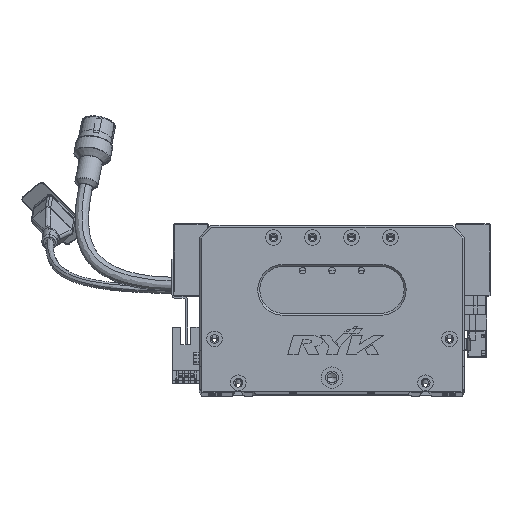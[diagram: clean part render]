
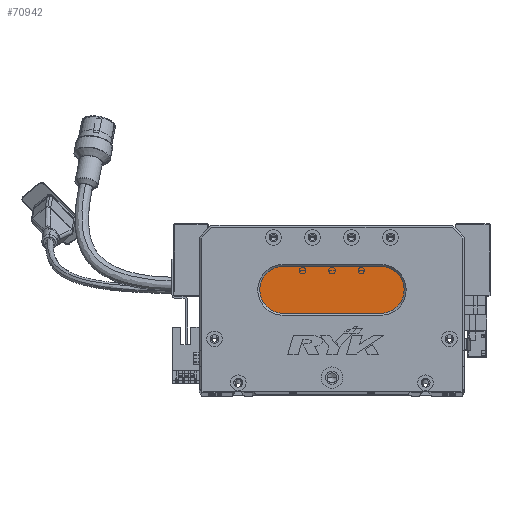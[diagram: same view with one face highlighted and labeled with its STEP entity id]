
A CAD part, top view. The second image highlights one B-rep face of the part: STEP entity #70942.
In plain terms, the highlighted planar face has unit normal (0, 0, 1) as drawn and (0, 0, -1) by its records, which use the part's own axes.
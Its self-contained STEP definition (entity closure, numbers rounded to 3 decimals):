
#49 = DIRECTION ( 'NONE',  ( 0., 0., -1. ) ) ;
#327 = EDGE_CURVE ( 'NONE', #45799, #19601, #66382, .T. ) ;
#499 = LINE ( 'NONE', #4787, #71736 ) ;
#2702 = DIRECTION ( 'NONE',  ( 0., 0., -1. ) ) ;
#4621 = AXIS2_PLACEMENT_3D ( 'NONE', #22626, #2702, #84747 ) ;
#4787 = CARTESIAN_POINT ( 'NONE',  ( 93., 64., 13. ) ) ;
#7245 = CARTESIAN_POINT ( 'NONE',  ( 93., 64., 13. ) ) ;
#7870 = CARTESIAN_POINT ( 'NONE',  ( 93., 52., 13. ) ) ;
#12320 = DIRECTION ( 'NONE',  ( 1., 0., 0. ) ) ;
#12760 = CARTESIAN_POINT ( 'NONE',  ( 43., 52., 13. ) ) ;
#15343 = AXIS2_PLACEMENT_3D ( 'NONE', #85127, #71833, #85415 ) ;
#17971 = CARTESIAN_POINT ( 'NONE',  ( 93., 40., 13. ) ) ;
#19601 = VERTEX_POINT ( 'NONE', #17971 ) ;
#20745 = ORIENTED_EDGE ( 'NONE', *, *, #327, .T. ) ;
#22626 = CARTESIAN_POINT ( 'NONE',  ( 43., 52., 13. ) ) ;
#28524 = CIRCLE ( 'NONE', #4621, 12. ) ;
#30385 = ORIENTED_EDGE ( 'NONE', *, *, #75848, .T. ) ;
#33534 = VERTEX_POINT ( 'NONE', #34872 ) ;
#34872 = CARTESIAN_POINT ( 'NONE',  ( 43., 40., 13. ) ) ;
#36850 = PLANE ( 'NONE',  #15343 ) ;
#38247 = FACE_OUTER_BOUND ( 'NONE', #39849, .T. ) ;
#39849 = EDGE_LOOP ( 'NONE', ( #20745, #30385, #82689, #77792, #60657 ) ) ;
#45799 = VERTEX_POINT ( 'NONE', #7245 ) ;
#47441 = DIRECTION ( 'NONE',  ( 0., 0., -1. ) ) ;
#48017 = DIRECTION ( 'NONE',  ( -1., 0., 0. ) ) ;
#49867 = VERTEX_POINT ( 'NONE', #51130 ) ;
#49871 = DIRECTION ( 'NONE',  ( -1., 0., 0. ) ) ;
#51130 = CARTESIAN_POINT ( 'NONE',  ( 43., 64., 13. ) ) ;
#52934 = DIRECTION ( 'NONE',  ( -1., 0., 0. ) ) ;
#54410 = AXIS2_PLACEMENT_3D ( 'NONE', #7870, #49, #48017 ) ;
#55277 = LINE ( 'NONE', #70376, #72466 ) ;
#58348 = VERTEX_POINT ( 'NONE', #67146 ) ;
#60657 = ORIENTED_EDGE ( 'NONE', *, *, #80674, .T. ) ;
#62639 = CIRCLE ( 'NONE', #67152, 12. ) ;
#66382 = CIRCLE ( 'NONE', #54410, 12. ) ;
#67146 = CARTESIAN_POINT ( 'NONE',  ( 31., 52., 13. ) ) ;
#67152 = AXIS2_PLACEMENT_3D ( 'NONE', #12760, #47441, #52934 ) ;
#70376 = CARTESIAN_POINT ( 'NONE',  ( 93., 40., 13. ) ) ;
#70942 = ADVANCED_FACE ( 'NONE', ( #38247 ), #36850, .T. ) ;
#71736 = VECTOR ( 'NONE', #12320, 1000. ) ;
#71833 = DIRECTION ( 'NONE',  ( 0., 0., -1. ) ) ;
#72466 = VECTOR ( 'NONE', #49871, 1000. ) ;
#75473 = EDGE_CURVE ( 'NONE', #33534, #58348, #28524, .T. ) ;
#75848 = EDGE_CURVE ( 'NONE', #19601, #33534, #55277, .T. ) ;
#77189 = EDGE_CURVE ( 'NONE', #58348, #49867, #62639, .T. ) ;
#77792 = ORIENTED_EDGE ( 'NONE', *, *, #77189, .T. ) ;
#80674 = EDGE_CURVE ( 'NONE', #49867, #45799, #499, .T. ) ;
#82689 = ORIENTED_EDGE ( 'NONE', *, *, #75473, .T. ) ;
#84747 = DIRECTION ( 'NONE',  ( -1., 0., 0. ) ) ;
#85127 = CARTESIAN_POINT ( 'NONE',  ( 93., 52., 13. ) ) ;
#85415 = DIRECTION ( 'NONE',  ( -1., 0., 0. ) ) ;
